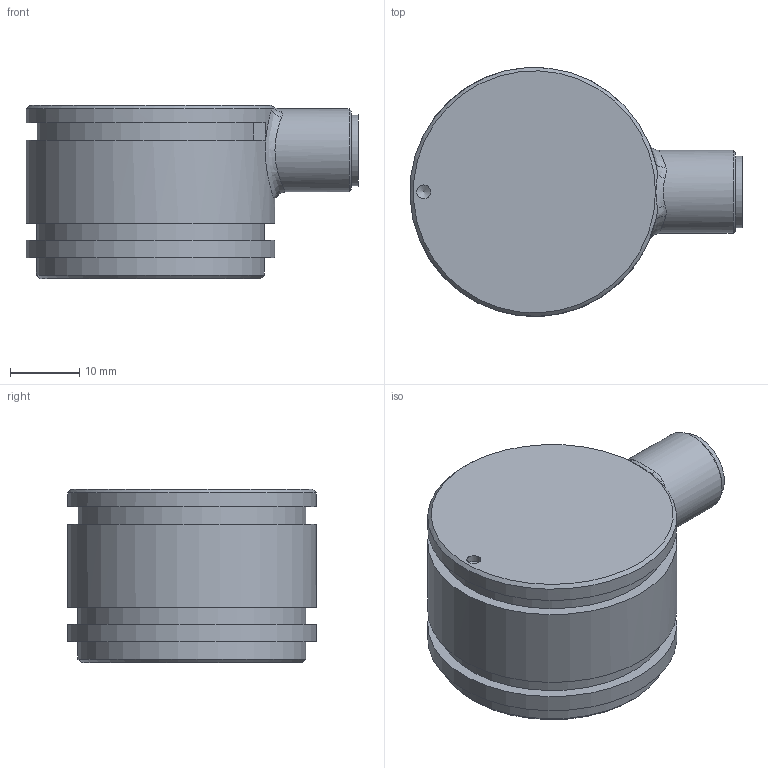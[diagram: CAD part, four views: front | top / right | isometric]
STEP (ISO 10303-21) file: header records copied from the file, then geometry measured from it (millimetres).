
FILE_DESCRIPTION((''),'2;1');
FILE_NAME('K:\Daten\Bauteil10.stp','2009-03-11T11:20:31',('kamp'),(''),'Autodesk Inventor 2008','Autodesk Inventor 2008','');
FILE_SCHEMA(('AUTOMOTIVE_DESIGN { 1 0 10303 214 1 1 1 1 }'));
Length unit declared in the file: millimetre
Products named in the file (1): Bauteil10
Bounding box: 47.98 x 35.97 x 25 mm (x, y, z)
Volume: 25125.1 mm3; surface area: 6157.9 mm2
Topology: 1 solids, 1 shells, 60 faces, 158 edges, 100 vertices
Faces by surface type: plane 28, cylinder 18, bspline 6, sphere 5, cone 3
Full cylindrical faces by diameter (mm): 1 x5, 8.3 x1, 10.4 x1, 12 x1, 33 x2, 36 x2
Entity records: 2339 total; most frequent: CARTESIAN_POINT 958, DIRECTION 290, ORIENTED_EDGE 244, EDGE_CURVE 122, AXIS2_PLACEMENT_3D 121, VERTEX_POINT 92, EDGE_LOOP 88, CIRCLE 66
